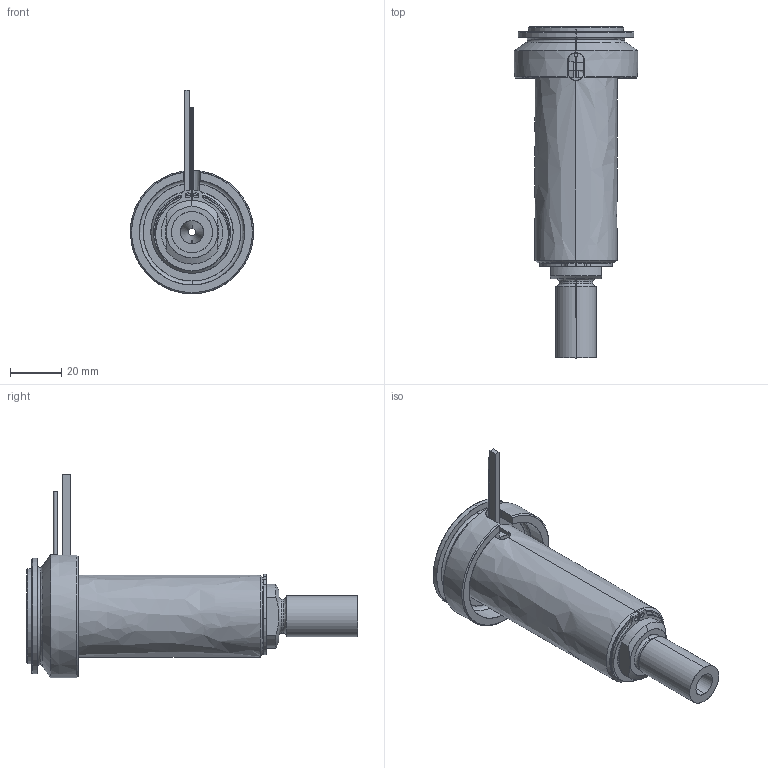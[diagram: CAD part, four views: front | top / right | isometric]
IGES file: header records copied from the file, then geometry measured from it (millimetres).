
Start section: SolidWorks IGES file using analytic representation for surfaces
Global section: file name: C:\Documents and Settings\ws-20\Desktop\TEMPORANEA\UGBE5002-M-A-P-5 [Ød-3.0 P-25 ØC-13].IGS; native system: SolidWorks 2012; preprocessor: SolidWorks 2012; author: ws-20; date: 120306.161800; units: millimetre
Bounding box: 48 x 129.25 x 79.3 mm (x, y, z)
Surface area: 41252.3 mm2 (no closed solid volume)
Topology: 0 solids, 0 shells, 109 faces, 2046 edges, 2046 vertices
Faces by surface type: revolution 61, bspline 48
